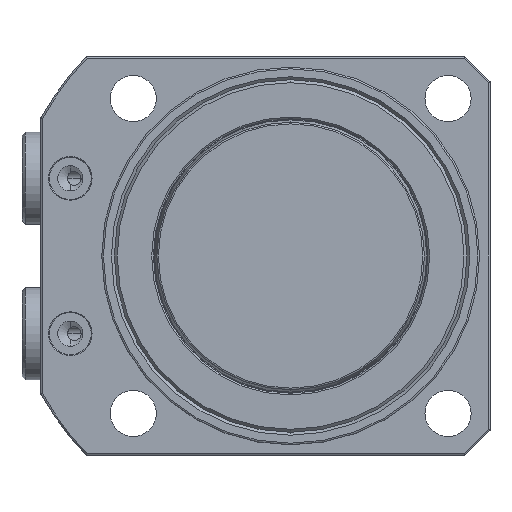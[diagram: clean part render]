
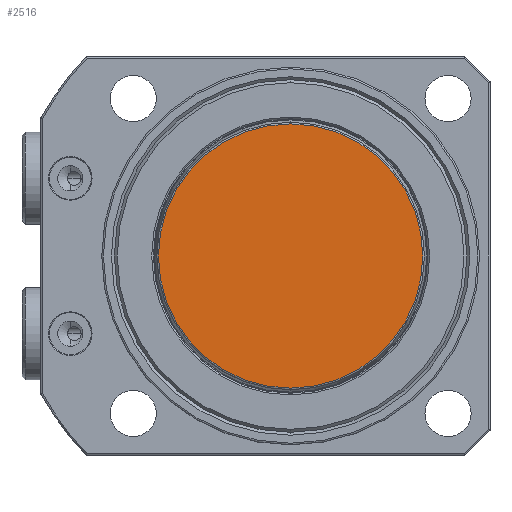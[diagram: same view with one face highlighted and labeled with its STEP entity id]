
A CAD part, front view. The second image highlights one B-rep face of the part: STEP entity #2516.
In plain terms, the highlighted planar face has unit normal (0, -1, 0).
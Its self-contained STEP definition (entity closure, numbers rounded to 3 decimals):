
#503 = ORIENTED_EDGE ( 'NONE', *, *, #2662, .T. ) ;
#953 = CARTESIAN_POINT ( 'NONE',  ( 31.772, 0., 0. ) ) ;
#1505 = AXIS2_PLACEMENT_3D ( 'NONE', #6783, #3214, #7381 ) ;
#1517 = DIRECTION ( 'NONE',  ( 0., -1., 0. ) ) ;
#1589 = PLANE ( 'NONE',  #6850 ) ;
#2168 = EDGE_CURVE ( 'NONE', #3753, #7070, #4769, .T. ) ;
#2192 = DIRECTION ( 'NONE',  ( 0., 0., 1. ) ) ;
#2461 = CARTESIAN_POINT ( 'NONE',  ( 0., 0., 31.492 ) ) ;
#2516 = ADVANCED_FACE ( 'NONE', ( #2608 ), #1589, .F. ) ;
#2608 = FACE_OUTER_BOUND ( 'NONE', #5943, .T. ) ;
#2662 = EDGE_CURVE ( 'NONE', #7070, #3753, #3623, .T. ) ;
#3214 = DIRECTION ( 'NONE',  ( 0., -1., 0. ) ) ;
#3623 = CIRCLE ( 'NONE', #1505, 31.492 ) ;
#3753 = VERTEX_POINT ( 'NONE', #2461 ) ;
#3808 = AXIS2_PLACEMENT_3D ( 'NONE', #5105, #1517, #5687 ) ;
#3969 = CARTESIAN_POINT ( 'NONE',  ( 0., 0., -31.492 ) ) ;
#4769 = CIRCLE ( 'NONE', #3808, 31.492 ) ;
#5105 = CARTESIAN_POINT ( 'NONE',  ( 0., 0., 0. ) ) ;
#5687 = DIRECTION ( 'NONE',  ( 0., 0., 1. ) ) ;
#5766 = DIRECTION ( 'NONE',  ( 0., 1., 0. ) ) ;
#5943 = EDGE_LOOP ( 'NONE', ( #5955, #503 ) ) ;
#5955 = ORIENTED_EDGE ( 'NONE', *, *, #2168, .T. ) ;
#6783 = CARTESIAN_POINT ( 'NONE',  ( 0., 0., 0. ) ) ;
#6850 = AXIS2_PLACEMENT_3D ( 'NONE', #953, #5766, #2192 ) ;
#7070 = VERTEX_POINT ( 'NONE', #3969 ) ;
#7381 = DIRECTION ( 'NONE',  ( 0., 0., 1. ) ) ;
